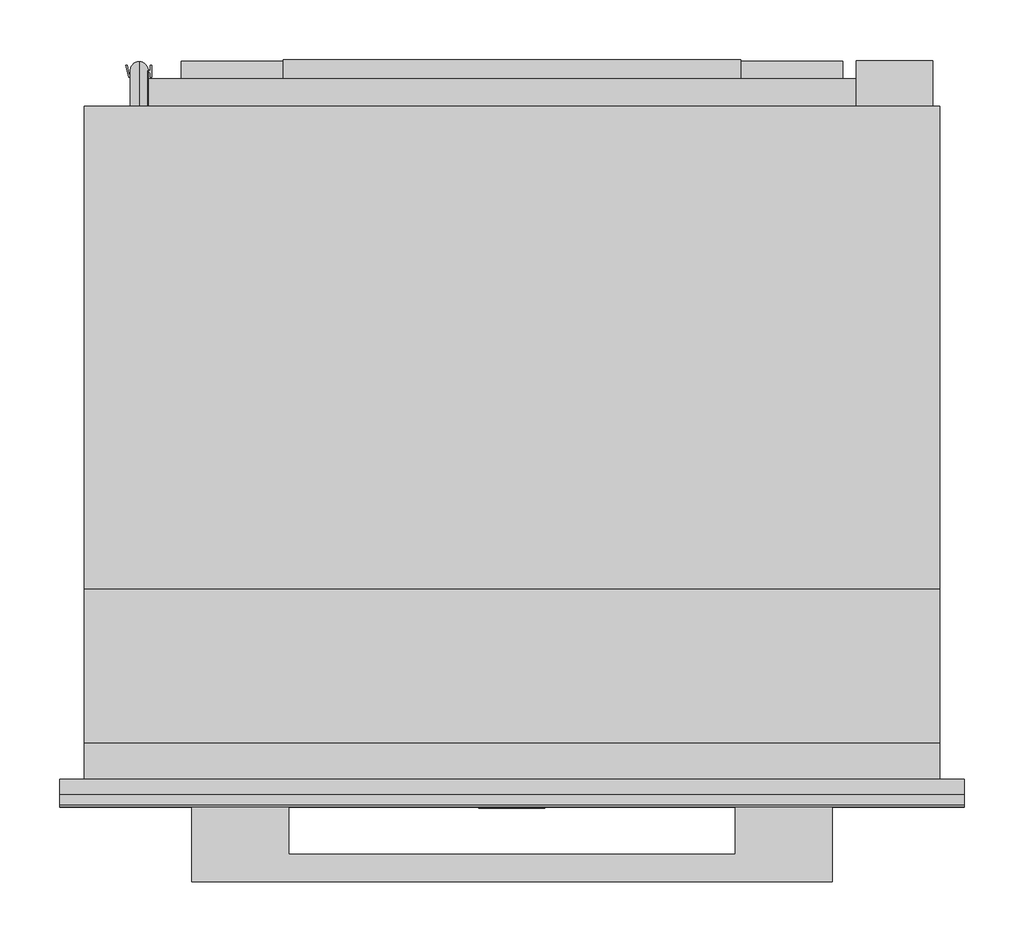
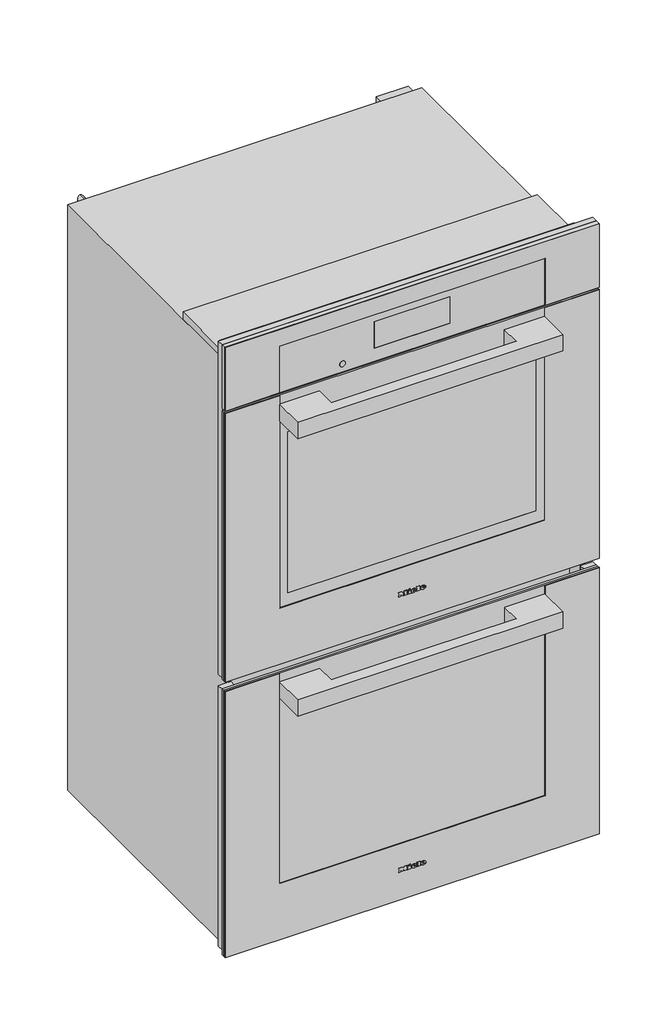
# Not in any storey: 1 proxy.
"""IFC4 building model written with IfcOpenShell, lengths in millimetres."""

import ifcopenshell
import ifcopenshell.guid

model = None  # the IFC model being written
_history = None  # IfcOwnerHistory: only IFC2X3 demands one
_inside = {}  # id of a spatial element -> (the spatial element, [elements in it])
_under = {}  # id of a project, library or spatial element -> (it, [spatial elements below it])
_declared = {}  # id of a project -> (the project, [libraries it declares])
_typed = {}  # id of a type object -> (the type object, [elements of that type])
_made_of = {}  # id of a material, layer set ... -> (it, [elements and type objects made of it])


def new_model(schema):
    """Start an empty IFC model of exactly this schema.

    Asked for "IFC4X3", IfcOpenShell would pick the latest addendum, in which some entities
    have other attributes; the version numbers below select the first issue.
    IFC2X3 requires an IfcOwnerHistory on every rooted entity: one is made here for all.
    """
    global model, _history
    if schema == "IFC4X3":
        model = ifcopenshell.file(schema_version=(4, 3, 0, 0))
    else:
        model = ifcopenshell.file(schema=schema)
    _inside.clear()
    _under.clear()
    _declared.clear()
    _typed.clear()
    _made_of.clear()
    _history = None
    if model.schema == "IFC2X3":
        org = make("IfcOrganization", Name="unknown")
        user = make(
            "IfcPersonAndOrganization",
            ThePerson=make("IfcPerson", FamilyName="unknown"),
            TheOrganization=org,
        )
        app = make(
            "IfcApplication",
            ApplicationDeveloper=org,
            Version="unknown",
            ApplicationFullName="unknown",
            ApplicationIdentifier="unknown",
        )
        _history = make(
            "IfcOwnerHistory",
            OwningUser=user,
            OwningApplication=app,
            ChangeAction="ADDED",
            CreationDate=0,
        )
    return model


def make(cls, **values):
    """One entity of the class cls with the attributes given. An attribute that is None is left unset."""
    return model.create_entity(
        cls, **{name: value for name, value in values.items() if value is not None}
    )


def rooted(cls, **values):
    """An entity with a GlobalId (a new one), such as an element, a storey or a relation."""
    return make(cls, GlobalId=ifcopenshell.guid.new(), OwnerHistory=_history, **values)


def si_unit(unit_type, name, prefix=None):
    """IfcSIUnit, for example si_unit("LENGTHUNIT", "METRE", prefix="MILLI")."""
    return make("IfcSIUnit", UnitType=unit_type, Prefix=prefix, Name=name)


def assignment(units):
    """IfcUnitAssignment: the units of a project."""
    return None if units is None else make("IfcUnitAssignment", Units=units)


def point(xyz):
    """IfcCartesianPoint."""
    return None if xyz is None else make("IfcCartesianPoint", Coordinates=xyz)


def direction(xyz):
    """IfcDirection."""
    return None if xyz is None else make("IfcDirection", DirectionRatios=xyz)


def frame(location, z_axis=None, x_axis=None):
    """IfcAxis2Placement3D, a coordinate frame: its origin and axes. An axis left out is left unset."""
    return make(
        "IfcAxis2Placement3D",
        Location=point(location),
        Axis=direction(z_axis),
        RefDirection=direction(x_axis),
    )


def frame_2d(location, x_axis=None):
    """IfcAxis2Placement2D, a coordinate frame in the plane: its origin and x axis."""
    return make(
        "IfcAxis2Placement2D", Location=point(location), RefDirection=direction(x_axis)
    )


def origin():
    """The frame at (0, 0, 0) with its axes left unset."""
    return frame((0.0, 0.0, 0.0))


def place(relative_to, where):
    """IfcLocalPlacement: puts the frame where relative to a parent placement (None: the world)."""
    return make(
        "IfcLocalPlacement", PlacementRelTo=relative_to, RelativePlacement=where
    )


def context(
    kind, dimensions, precision=None, world=None, true_north=None, identifier=None
):
    """IfcGeometricRepresentationContext, for example the 3D "Model" context."""
    return make(
        "IfcGeometricRepresentationContext",
        ContextIdentifier=identifier,
        ContextType=kind,
        CoordinateSpaceDimension=dimensions,
        Precision=precision,
        WorldCoordinateSystem=world,
        TrueNorth=true_north,
    )


def project(units=None, contexts=None):
    """IfcProject with its units and contexts."""
    return rooted(
        "IfcProject",
        Name="project",
        RepresentationContexts=contexts,
        UnitsInContext=assignment(units),
    )


def spatial(cls, under=None, at=None, **own):
    """A site, building, storey or space (cls), placed at a placement, below another one or the project."""
    s = rooted(cls, ObjectPlacement=at, **own)
    if under is not None:
        _under.setdefault(under.id(), (under, []))[1].append(s)
    return s


def polyline(points):
    """IfcPolyline through the points."""
    return make("IfcPolyline", Points=[point(p) for p in points])


def circle_curve(where, radius):
    """IfcCircle in the frame where."""
    return make("IfcCircle", Position=where, Radius=radius)


def ellipse_curve(where, semi_axis1, semi_axis2):
    """IfcEllipse in the frame where."""
    return make(
        "IfcEllipse", Position=where, SemiAxis1=semi_axis1, SemiAxis2=semi_axis2
    )


def trimmed(basis, trim1, trim2, sense, master):
    """IfcTrimmedCurve: the piece of a basis curve between two trims."""
    return make(
        "IfcTrimmedCurve",
        BasisCurve=basis,
        Trim1=trim1,
        Trim2=trim2,
        SenseAgreement=sense,
        MasterRepresentation=master,
    )


def segment(curve, same_sense, transition):
    """IfcCompositeCurveSegment."""
    return make(
        "IfcCompositeCurveSegment",
        Transition=transition,
        SameSense=same_sense,
        ParentCurve=curve,
    )


def composite_curve(segments, self_intersect=None):
    """IfcCompositeCurve: segments joined end to end."""
    return make("IfcCompositeCurve", Segments=segments, SelfIntersect=self_intersect)


def outline(outer, holes=None, kind="AREA"):
    """IfcArbitraryClosedProfileDef: a profile drawn as a closed curve; with holes, ...WithVoids."""
    if holes is None:
        return make("IfcArbitraryClosedProfileDef", ProfileType=kind, OuterCurve=outer)
    return make(
        "IfcArbitraryProfileDefWithVoids",
        ProfileType=kind,
        OuterCurve=outer,
        InnerCurves=holes,
    )


def extrude(swept, where, along, depth):
    """IfcExtrudedAreaSolid: the profile swept, set in the frame where, extruded along a direction by depth."""
    return make(
        "IfcExtrudedAreaSolid",
        SweptArea=swept,
        Position=where,
        ExtrudedDirection=direction(along),
        Depth=depth,
    )


def faces_of(points, faces, orient=None, outer=None):
    """IfcFace entities. A face is a list of loops; a loop is a list of indices into points, from 0.

    orient and outer hold one flag for each loop. By default every Orientation is true, the
    first loop of a face is its IfcFaceOuterBound and the others are IfcFaceBound.
    """
    made = []
    for i, loops in enumerate(faces):
        bounds = []
        for j, loop in enumerate(loops):
            is_outer = j == 0 if outer is None else outer[i][j]
            bounds.append(
                make(
                    "IfcFaceOuterBound" if is_outer else "IfcFaceBound",
                    Bound=make("IfcPolyLoop", Polygon=[points[k] for k in loop]),
                    Orientation=True if orient is None else orient[i][j],
                )
            )
        made.append(make("IfcFace", Bounds=bounds))
    return made


def faceted_brep(points, faces, orient=None, outer=None, voids=None):
    """IfcFacetedBrep: a solid bounded by flat faces; with voids (closed shells), ...WithVoids."""
    shared = [point(p) for p in points]
    hull = make("IfcClosedShell", CfsFaces=faces_of(shared, faces, orient, outer))
    if voids is None:
        return make("IfcFacetedBrep", Outer=hull)
    return make(
        "IfcFacetedBrepWithVoids",
        Outer=hull,
        Voids=[
            make(cls, CfsFaces=faces_of(shared, fs, o, b)) for cls, fs, o, b in voids
        ],
    )


def shape(context_of_items, identifier, shape_type, items):
    """IfcShapeRepresentation: the items that make up one representation, for example the "Body"."""
    return make(
        "IfcShapeRepresentation",
        ContextOfItems=context_of_items,
        RepresentationIdentifier=identifier,
        RepresentationType=shape_type,
        Items=items,
    )


def source(mapping_origin, context_of_items, identifier, shape_type, items):
    """IfcRepresentationMap: a shape defined once, which mapped items show again and again."""
    return make(
        "IfcRepresentationMap",
        MappingOrigin=mapping_origin,
        MappedRepresentation=shape(context_of_items, identifier, shape_type, items),
    )


def transform(
    local_origin,
    x_axis=None,
    y_axis=None,
    z_axis=None,
    scale=None,
    scale2=None,
    scale3=None,
    uniform=True,
):
    """IfcCartesianTransformationOperator3D, or its non-uniform kind. x_axis, y_axis, z_axis: its Axis1, 2, 3."""
    if uniform:
        return make(
            "IfcCartesianTransformationOperator3D",
            Axis1=direction(x_axis),
            Axis2=direction(y_axis),
            LocalOrigin=point(local_origin),
            Scale=scale,
            Axis3=direction(z_axis),
        )
    return make(
        "IfcCartesianTransformationOperator3DnonUniform",
        Axis1=direction(x_axis),
        Axis2=direction(y_axis),
        LocalOrigin=point(local_origin),
        Scale=scale,
        Axis3=direction(z_axis),
        Scale2=scale2,
        Scale3=scale3,
    )


def mapped(mapping_source, mapping_target):
    """IfcMappedItem: shows the shape of a source again, moved by a transform."""
    return make(
        "IfcMappedItem", MappingSource=mapping_source, MappingTarget=mapping_target
    )


def made_of(thing, what):
    """Note that an element or type object is made of a material, layer set ...; save() writes the relation."""
    if what is not None:
        _made_of.setdefault(what.id(), (what, []))[1].append(thing)
    return thing


def element(
    cls,
    number,
    at=None,
    inside=None,
    cuts=None,
    type_object=None,
    material=None,
    context=None,
    identifier="Body",
    shape_type=None,
    held_by="IfcProductDefinitionShape",
    body=None,
    shapes=None,
    **own,
):
    """One element of the class cls, such as IfcWall. Its Tag is "e" and its number.

    at: its placement. inside: the storey or other place that contains it. cuts: it is an
    opening in that element (IfcRelVoidsElement). A single representation is given by context,
    identifier, shape_type and body (its items); several are given by shapes. held_by: the class
    of the entity that holds the representations. save() writes the other relations.
    """
    e = rooted(cls, Tag="e%d" % number, ObjectPlacement=at, **own)
    if body is not None:
        shapes = [shape(context, identifier, shape_type, body)]
    if shapes is not None:
        e.Representation = make(held_by, Representations=shapes)
    if inside is not None:
        _inside.setdefault(inside.id(), (inside, []))[1].append(e)
    if cuts is not None:
        rooted(
            "IfcRelVoidsElement", RelatingBuildingElement=cuts, RelatedOpeningElement=e
        )
    if type_object is not None:
        _typed.setdefault(type_object.id(), (type_object, []))[1].append(e)
    return made_of(e, material)


def aggregate(whole, parts):
    """IfcRelAggregates: a whole, such as a stair, and the parts it consists of."""
    return rooted("IfcRelAggregates", RelatingObject=whole, RelatedObjects=parts)


def save(model, path):
    """Write the relations noted so far, then the file.

    IfcRelAggregates (storeys below a building ...), IfcRelContainedInSpatialStructure (elements
    in a storey), IfcRelDefinesByType, IfcRelAssociatesMaterial and IfcRelDeclares: one each for
    every whole, place, type object, material and project.
    """
    for whole, parts in _under.values():
        aggregate(whole, parts)
    for where, things in _inside.values():
        rooted(
            "IfcRelContainedInSpatialStructure",
            RelatedElements=things,
            RelatingStructure=where,
        )
    for kind, things in _typed.values():
        rooted("IfcRelDefinesByType", RelatedObjects=things, RelatingType=kind)
    for what, things in _made_of.values():
        rooted("IfcRelAssociatesMaterial", RelatedObjects=things, RelatingMaterial=what)
    for by, libraries in _declared.values():
        rooted("IfcRelDeclares", RelatingContext=by, RelatedDefinitions=libraries)
    model.write(path)


def plane_surface(at):
    """IfcPlane: the flat surface through the origin of the frame at, square to its z axis."""
    return make("IfcPlane", Position=at)


def cylinder_surface(at, radius):
    """IfcCylindricalSurface: all points at the distance radius from the z axis of the frame at."""
    return make("IfcCylindricalSurface", Position=at, Radius=radius)


def revolved_surface(curve, axis_point, axis_direction):
    """IfcSurfaceOfRevolution: the curve turned about the line through axis_point along axis_direction."""
    return make(
        "IfcSurfaceOfRevolution",
        SweptCurve=make("IfcArbitraryOpenProfileDef", ProfileType="CURVE", Curve=curve),
        AxisPosition=make("IfcAxis1Placement", Location=point(axis_point), Axis=direction(axis_direction)),
    )


def extruded_surface(curve, direction_of_extrusion, depth):
    """IfcSurfaceOfLinearExtrusion: the curve pushed along a direction by depth."""
    return make(
        "IfcSurfaceOfLinearExtrusion",
        SweptCurve=make("IfcArbitraryOpenProfileDef", ProfileType="CURVE", Curve=curve),
        ExtrudedDirection=direction(direction_of_extrusion),
        Depth=depth,
    )


def advanced_brep(points, edges, surfaces, faces):
    """IfcAdvancedBrep: a solid bounded by faces that lie on surfaces and meet in shared edges.

    An edge is (start, end): straight between two places in points (the first is 0);
    or (start, end, curve); or (start, end, curve, False) where it runs against its curve.
    A face is (place in surfaces, loops), or (place, loops, False) where it looks against
    its surface's normal. A loop lists edges by number (the first is 1), with a minus sign
    where the edge is run from its end to its start. The first loop is the outer one.
    """
    corners = [point(p) for p in points]
    vertices = [make("IfcVertexPoint", VertexGeometry=c) for c in corners]
    made = []
    for start, end, *more in edges:
        made.append(
            make(
                "IfcEdgeCurve",
                EdgeStart=vertices[start],
                EdgeEnd=vertices[end],
                EdgeGeometry=more[0] if more else make("IfcPolyline", Points=[corners[start], corners[end]]),
                SameSense=more[1] if len(more) > 1 else True,
            )
        )
    hull = []
    for where, loops, *sense in faces:
        bounds = []
        for j, loop in enumerate(loops):
            ring = [make("IfcOrientedEdge", EdgeElement=made[abs(k) - 1], Orientation=k > 0) for k in loop]
            bounds.append(
                make(
                    "IfcFaceOuterBound" if j == 0 else "IfcFaceBound",
                    Bound=make("IfcEdgeLoop", EdgeList=ring),
                    Orientation=True,
                )
            )
        hull.append(make("IfcAdvancedFace", Bounds=bounds, FaceSurface=surfaces[where], SameSense=sense[0] if sense else True))
    return make("IfcAdvancedBrep", Outer=make("IfcClosedShell", CfsFaces=hull))


def specialty_equipment_2fecc1ba(model_context):
    return source(origin(), model_context, "Body", "SolidModel", [
        advanced_brep(
        [(20.763, -24.3, 655.133), (20.763, -24.3, 656.042), (26.784, -24.3, 656.042), (16.308, -24.3, 656.042), (18.783, -24.3, 653.0), (26.631, -24.3, 655.133), (23.913, -24.3, 655.133), (21.771, -24.3, 654.125), (20.763, -24.3, 657.194), (20.763, -24.3, 658.175), (22.302, -24.3, 658.175), (22.302, -24.3, 657.194), (20.763, -23.3, 655.133), (21.771, -23.3, 654.125), (23.913, -23.3, 655.133), (26.631, -23.3, 655.133), (18.783, -23.3, 653.0), (16.308, -23.3, 656.042), (26.784, -23.3, 656.042), (20.763, -23.3, 656.042), (20.763, -23.3, 657.194), (22.302, -23.3, 657.194), (22.302, -23.3, 658.175), (20.763, -23.3, 658.175)],
        [
            (0, 1),
            (1, 2),
            (2, 3, ellipse_curve(frame((21.546, -24.3, 656.042), z_axis=(0.0, -1.0, 0.0), x_axis=(-1.0, 0.0, 0.0)), 5.238, 4.329)),
            (3, 4, circle_curve(frame((19.7910491, -24.3, 656.348), z_axis=(0.0, -1.0, 0.0), x_axis=(0.0, 0.0, -1.0)), 3.4964649)),
            (4, 5, circle_curve(frame((21.4411428, -24.3, 658.724), z_axis=(0.0, -1.0, 0.0), x_axis=(0.0, 0.0, -1.0)), 6.3110933)),
            (5, 6),
            (6, 7, circle_curve(frame((22.2109412, -24.3, 655.97), z_axis=(0.0, 1.0, 0.0), x_axis=(0.0, 0.0, -1.0)), 1.896727)),
            (7, 0, circle_curve(frame((21.771, -24.3, 655.133), z_axis=(0.0, 1.0, 0.0), x_axis=(0.0, 0.0, -1.0)), 1.008)),
            (8, 9),
            (9, 10, circle_curve(frame((21.5325, -24.3, 658.175), z_axis=(0.0, 1.0, 0.0), x_axis=(0.0, 0.0, -1.0)), 0.7695)),
            (10, 11),
            (11, 8),
            (12, 13, circle_curve(frame((21.771, -23.3, 655.133), z_axis=(0.0, -1.0, 0.0), x_axis=(0.0, 0.0, -1.0)), 1.008)),
            (13, 14, circle_curve(frame((22.2109412, -23.3, 655.97), z_axis=(0.0, -1.0, 0.0), x_axis=(0.0, 0.0, -1.0)), 1.896727)),
            (14, 15),
            (15, 16, circle_curve(frame((21.4411428, -23.3, 658.724), z_axis=(0.0, 1.0, 0.0), x_axis=(0.0, 0.0, -1.0)), 6.3110933)),
            (16, 17, circle_curve(frame((19.7910491, -23.3, 656.348), z_axis=(0.0, 1.0, 0.0), x_axis=(0.0, 0.0, -1.0)), 3.4964649)),
            (17, 18, ellipse_curve(frame((21.546, -23.3, 656.042), z_axis=(0.0, 1.0, 0.0), x_axis=(-1.0, 0.0, 0.0)), 5.238, 4.329)),
            (18, 19),
            (19, 12),
            (20, 21),
            (21, 22),
            (22, 23, circle_curve(frame((21.5325, -23.3, 658.175), z_axis=(0.0, -1.0, 0.0), x_axis=(0.0, 0.0, -1.0)), 0.7695)),
            (23, 20),
            (0, 12),
            (19, 1),
            (18, 2),
            (5, 15),
            (14, 6),
            (17, 3),
            (13, 7),
            (16, 4),
            (8, 20),
            (23, 9),
            (22, 10),
            (21, 11),
        ],
        [
            plane_surface(frame((20.763, -24.3, 656.042), z_axis=(0.0, -1.0, 0.0), x_axis=(0.0, 0.0, 1.0))),
            plane_surface(frame((20.763, -23.3, 656.042), z_axis=(0.0, 1.0, 0.0), x_axis=(0.0, 0.0, -1.0))),
            plane_surface(frame((20.763, -24.3, 655.133), z_axis=(1.0, 0.0, 0.0), x_axis=(0.0, 1.0, 0.0))),
            plane_surface(frame((20.763, -24.3, 656.042), z_axis=(0.0, 0.0, -1.0), x_axis=(0.0, 1.0, 0.0))),
            plane_surface(frame((26.631, -24.3, 655.133), z_axis=(0.0, 0.0, 1.0), x_axis=(0.0, 1.0, 0.0))),
            extruded_surface(trimmed(ellipse_curve(frame((21.546, -22.3, 656.042), z_axis=(0.0, -1.0, 0.0), x_axis=(-1.0, 0.0, 0.0)), 5.238, 4.329), [point((26.784, -22.3, 656.042))], [point((16.308, -22.3, 656.042))], True, "CARTESIAN"), (0.0, -1.0, 0.0), 1.0),
            revolved_surface(polyline([(22.2109412, -23.3, 654.073273), (22.2109412, -24.3, 654.073273)]), (22.2109412, -23.3, 655.97), (0.0, 1.0, 0.0)),
            revolved_surface(polyline([(21.771, -23.3, 654.125), (21.771, -24.3, 654.125)]), (21.771, -23.3, 655.133), (0.0, 1.0, 0.0)),
            cylinder_surface(frame((19.7910491, -23.3, 656.348), z_axis=(0.0, -1.0, 0.0), x_axis=(0.0, 0.0, -1.0)), 3.4964649),
            cylinder_surface(frame((21.4411428, -23.3, 658.724), z_axis=(0.0, -1.0, 0.0), x_axis=(0.0, 0.0, -1.0)), 6.3110933),
            plane_surface(frame((20.763, -24.3, 657.194), z_axis=(1.0, 0.0, 0.0), x_axis=(0.0, 1.0, 0.0))),
            revolved_surface(polyline([(21.5325, -23.3, 657.4055), (21.5325, -24.3, 657.4055)]), (21.5325, -23.3, 658.175), (0.0, 1.0, 0.0)),
            plane_surface(frame((22.302, -24.3, 658.175), z_axis=(-1.0, 0.0, 0.0), x_axis=(0.0, 1.0, 0.0))),
            plane_surface(frame((22.302, -24.3, 657.194), z_axis=(0.0, 0.0, 1.0), x_axis=(0.0, 1.0, 0.0))),
        ],
        [
            (0, [[1, 2, 3, 4, 5, 6, 7, 8], [9, 10, 11, 12]]),
            (1, [[13, 14, 15, 16, 17, 18, 19, 20], [21, 22, 23, 24]]),
            (2, [[-1, 25, -20, 26]]),
            (3, [[-2, -26, -19, 27]]),
            (4, [[-6, 28, -15, 29]]),
            (5, [[-3, -27, -18, 30]]),
            (6, [[-7, -29, -14, 31]]),
            (7, [[-8, -31, -13, -25]]),
            (8, [[-4, -30, -17, 32]]),
            (9, [[-5, -32, -16, -28]]),
            (10, [[-9, 33, -24, 34]]),
            (11, [[-10, -34, -23, 35]]),
            (12, [[-11, -35, -22, 36]]),
            (13, [[-12, -36, -21, -33]]),
        ],
    ),
        advanced_brep(
        [(1.98, -24.3, 655.133), (1.98, -24.3, 656.042), (8.001, -24.3, 656.042), (-2.475, -24.3, 656.042), (0.0, -24.3, 653.0), (7.848, -24.3, 655.133), (5.13, -24.3, 655.133), (2.988, -24.3, 654.125), (1.98, -24.3, 657.194), (1.98, -24.3, 658.175), (3.519, -24.3, 658.175), (3.519, -24.3, 657.194), (1.98, -23.3, 655.133), (2.988, -23.3, 654.125), (5.13, -23.3, 655.133), (7.848, -23.3, 655.133), (0.0, -23.3, 653.0), (-2.475, -23.3, 656.042), (8.001, -23.3, 656.042), (1.98, -23.3, 656.042), (1.98, -23.3, 657.194), (3.519, -23.3, 657.194), (3.519, -23.3, 658.175), (1.98, -23.3, 658.175)],
        [
            (0, 1),
            (1, 2),
            (2, 3, ellipse_curve(frame((2.763, -24.3, 656.042), z_axis=(0.0, -1.0, 0.0), x_axis=(-1.0, 0.0, 0.0)), 5.238, 4.329)),
            (3, 4, circle_curve(frame((1.0080491, -24.3, 656.348), z_axis=(0.0, -1.0, 0.0), x_axis=(0.0, 0.0, -1.0)), 3.4964649)),
            (4, 5, circle_curve(frame((2.6581428, -24.3, 658.724), z_axis=(0.0, -1.0, 0.0), x_axis=(0.0, 0.0, -1.0)), 6.3110933)),
            (5, 6),
            (6, 7, circle_curve(frame((3.4279412, -24.3, 655.97), z_axis=(0.0, 1.0, 0.0), x_axis=(0.0, 0.0, -1.0)), 1.896727)),
            (7, 0, circle_curve(frame((2.988, -24.3, 655.133), z_axis=(0.0, 1.0, 0.0), x_axis=(0.0, 0.0, -1.0)), 1.008)),
            (8, 9),
            (9, 10, circle_curve(frame((2.7495, -24.3, 658.175), z_axis=(0.0, 1.0, 0.0), x_axis=(0.0, 0.0, -1.0)), 0.7695)),
            (10, 11),
            (11, 8),
            (12, 13, circle_curve(frame((2.988, -23.3, 655.133), z_axis=(0.0, -1.0, 0.0), x_axis=(0.0, 0.0, -1.0)), 1.008)),
            (13, 14, circle_curve(frame((3.4279412, -23.3, 655.97), z_axis=(0.0, -1.0, 0.0), x_axis=(0.0, 0.0, -1.0)), 1.896727)),
            (14, 15),
            (15, 16, circle_curve(frame((2.6581428, -23.3, 658.724), z_axis=(0.0, 1.0, 0.0), x_axis=(0.0, 0.0, -1.0)), 6.3110933)),
            (16, 17, circle_curve(frame((1.0080491, -23.3, 656.348), z_axis=(0.0, 1.0, 0.0), x_axis=(0.0, 0.0, -1.0)), 3.4964649)),
            (17, 18, ellipse_curve(frame((2.763, -23.3, 656.042), z_axis=(0.0, 1.0, 0.0), x_axis=(-1.0, 0.0, 0.0)), 5.238, 4.329)),
            (18, 19),
            (19, 12),
            (20, 21),
            (21, 22),
            (22, 23, circle_curve(frame((2.7495, -23.3, 658.175), z_axis=(0.0, -1.0, 0.0), x_axis=(0.0, 0.0, -1.0)), 0.7695)),
            (23, 20),
            (0, 12),
            (19, 1),
            (18, 2),
            (5, 15),
            (14, 6),
            (17, 3),
            (13, 7),
            (16, 4),
            (8, 20),
            (23, 9),
            (22, 10),
            (21, 11),
        ],
        [
            plane_surface(frame((1.98, -24.3, 656.042), z_axis=(0.0, -1.0, 0.0), x_axis=(0.0, 0.0, 1.0))),
            plane_surface(frame((1.98, -23.3, 656.042), z_axis=(0.0, 1.0, 0.0), x_axis=(0.0, 0.0, -1.0))),
            plane_surface(frame((1.98, -24.3, 655.133), z_axis=(1.0, 0.0, 0.0), x_axis=(0.0, 1.0, 0.0))),
            plane_surface(frame((1.98, -24.3, 656.042), z_axis=(0.0, 0.0, -1.0), x_axis=(0.0, 1.0, 0.0))),
            plane_surface(frame((7.848, -24.3, 655.133), z_axis=(0.0, 0.0, 1.0), x_axis=(0.0, 1.0, 0.0))),
            extruded_surface(trimmed(ellipse_curve(frame((2.763, -22.3, 656.042), z_axis=(0.0, -1.0, 0.0), x_axis=(-1.0, 0.0, 0.0)), 5.238, 4.329), [point((8.001, -22.3, 656.042))], [point((-2.475, -22.3, 656.042))], True, "CARTESIAN"), (0.0, -1.0, 0.0), 1.0),
            revolved_surface(polyline([(3.4279412, -23.3, 654.073273), (3.4279412, -24.3, 654.073273)]), (3.4279412, -23.3, 655.97), (0.0, 1.0, 0.0)),
            revolved_surface(polyline([(2.988, -23.3, 654.125), (2.988, -24.3, 654.125)]), (2.988, -23.3, 655.133), (0.0, 1.0, 0.0)),
            cylinder_surface(frame((1.0080491, -23.3, 656.348), z_axis=(0.0, -1.0, 0.0), x_axis=(0.0, 0.0, -1.0)), 3.4964649),
            cylinder_surface(frame((2.6581428, -23.3, 658.724), z_axis=(0.0, -1.0, 0.0), x_axis=(0.0, 0.0, -1.0)), 6.3110933),
            plane_surface(frame((1.98, -24.3, 657.194), z_axis=(1.0, 0.0, 0.0), x_axis=(0.0, 1.0, 0.0))),
            revolved_surface(polyline([(2.7495, -23.3, 657.4055), (2.7495, -24.3, 657.4055)]), (2.7495, -23.3, 658.175), (0.0, 1.0, 0.0)),
            plane_surface(frame((3.519, -24.3, 658.175), z_axis=(-1.0, 0.0, 0.0), x_axis=(0.0, 1.0, 0.0))),
            plane_surface(frame((3.519, -24.3, 657.194), z_axis=(0.0, 0.0, 1.0), x_axis=(0.0, 1.0, 0.0))),
        ],
        [
            (0, [[1, 2, 3, 4, 5, 6, 7, 8], [9, 10, 11, 12]]),
            (1, [[13, 14, 15, 16, 17, 18, 19, 20], [21, 22, 23, 24]]),
            (2, [[-1, 25, -20, 26]]),
            (3, [[-2, -26, -19, 27]]),
            (4, [[-6, 28, -15, 29]]),
            (5, [[-3, -27, -18, 30]]),
            (6, [[-7, -29, -14, 31]]),
            (7, [[-8, -31, -13, -25]]),
            (8, [[-4, -30, -17, 32]]),
            (9, [[-5, -32, -16, -28]]),
            (10, [[-9, 33, -24, 34]]),
            (11, [[-10, -34, -23, 35]]),
            (12, [[-11, -35, -22, 36]]),
            (13, [[-12, -36, -21, -33]]),
        ],
    ),
        extrude(outline(polyline([(661.469, -7.857), (660.011, -7.173), (661.433, -4.122), (662.891, -4.797), (661.469, -7.857)])), frame((0.0, -24.3, 0.0), z_axis=(0.0, 1.0, 0.0), x_axis=(0.0, 0.0, 1.0)), (0.0, 0.0, 1.0), 1.0),
        extrude(outline(polyline([(659.813, -10.08), (658.202, -10.08), (658.202, -9.009), (654.512, -9.009), (654.512, -10.08), (653.0, -10.08), (653.0, -2.979), (654.512, -2.979), (654.512, -4.023), (659.813, -4.023), (659.813, -10.08)])), frame((0.0, -24.3, 0.0), z_axis=(0.0, 1.0, 0.0), x_axis=(0.0, 0.0, 1.0)), (0.0, 0.0, 1.0), 1.0),
        extrude(outline(polyline([(660.533, 8.505), (660.533, 9.585), (654.512, 9.585), (654.512, 8.505), (653.0, 8.505), (653.0, 15.804), (654.512, 15.804), (654.512, 14.697), (662.0, 14.697), (662.0, 8.505), (660.533, 8.505)])), frame((0.0, -24.3, 0.0), z_axis=(0.0, 1.0, 0.0), x_axis=(0.0, 0.0, 1.0)), (0.0, 0.0, 1.0), 1.0),
        extrude(outline(polyline([(660.533, -28.017), (660.533, -26.928), (654.512, -26.928), (654.512, -28.017), (653.0, -28.017), (653.0, -24.057), (654.512, -24.057), (654.512, -25.137), (658.3341247, -25.137), (653.0, -21.114), (658.4402223, -17.073), (654.512, -17.073), (654.512, -18.18), (653.0, -18.18), (653.0, -10.998), (654.512, -10.998), (654.512, -12.141), (660.533, -12.141), (660.533, -10.998), (662.0, -10.998), (662.0, -16.479), (658.625, -19.107), (662.0, -21.744), (662.0, -28.017), (660.533, -28.017)])), frame((0.0, -24.3, 0.0), z_axis=(0.0, 1.0, 0.0), x_axis=(0.0, 0.0, 1.0)), (0.0, 0.0, 1.0), 1.0),
        advanced_brep(
        [(21.28, -24.3, 66.133), (21.28, -24.3, 67.042), (27.301, -24.3, 67.042), (16.825, -24.3, 67.042), (19.3, -24.3, 64.0), (27.148, -24.3, 66.133), (24.43, -24.3, 66.133), (22.288, -24.3, 65.125), (21.28, -24.3, 68.194), (21.28, -24.3, 69.175), (22.819, -24.3, 69.175), (22.819, -24.3, 68.194), (21.28, -23.3, 66.133), (22.288, -23.3, 65.125), (24.43, -23.3, 66.133), (27.148, -23.3, 66.133), (19.3, -23.3, 64.0), (16.825, -23.3, 67.042), (27.301, -23.3, 67.042), (21.28, -23.3, 67.042), (21.28, -23.3, 68.194), (22.819, -23.3, 68.194), (22.819, -23.3, 69.175), (21.28, -23.3, 69.175)],
        [
            (0, 1),
            (1, 2),
            (2, 3, ellipse_curve(frame((22.063, -24.3, 67.042), z_axis=(0.0, -1.0, 0.0), x_axis=(-1.0, 0.0, 0.0)), 5.238, 4.329)),
            (3, 4, circle_curve(frame((20.3080491, -24.3, 67.348), z_axis=(0.0, -1.0, 0.0), x_axis=(0.0, 0.0, -1.0)), 3.4964649)),
            (4, 5, circle_curve(frame((21.9581428, -24.3, 69.724), z_axis=(0.0, -1.0, 0.0), x_axis=(0.0, 0.0, -1.0)), 6.3110933)),
            (5, 6),
            (6, 7, circle_curve(frame((22.7279412, -24.3, 66.97), z_axis=(0.0, 1.0, 0.0), x_axis=(0.0, 0.0, -1.0)), 1.896727)),
            (7, 0, circle_curve(frame((22.288, -24.3, 66.133), z_axis=(0.0, 1.0, 0.0), x_axis=(0.0, 0.0, -1.0)), 1.008)),
            (8, 9),
            (9, 10, circle_curve(frame((22.0495, -24.3, 69.175), z_axis=(0.0, 1.0, 0.0), x_axis=(0.0, 0.0, -1.0)), 0.7695)),
            (10, 11),
            (11, 8),
            (12, 13, circle_curve(frame((22.288, -23.3, 66.133), z_axis=(0.0, -1.0, 0.0), x_axis=(0.0, 0.0, -1.0)), 1.008)),
            (13, 14, circle_curve(frame((22.7279412, -23.3, 66.97), z_axis=(0.0, -1.0, 0.0), x_axis=(0.0, 0.0, -1.0)), 1.896727)),
            (14, 15),
            (15, 16, circle_curve(frame((21.9581428, -23.3, 69.724), z_axis=(0.0, 1.0, 0.0), x_axis=(0.0, 0.0, -1.0)), 6.3110933)),
            (16, 17, circle_curve(frame((20.3080491, -23.3, 67.348), z_axis=(0.0, 1.0, 0.0), x_axis=(0.0, 0.0, -1.0)), 3.4964649)),
            (17, 18, ellipse_curve(frame((22.063, -23.3, 67.042), z_axis=(0.0, 1.0, 0.0), x_axis=(-1.0, 0.0, 0.0)), 5.238, 4.329)),
            (18, 19),
            (19, 12),
            (20, 21),
            (21, 22),
            (22, 23, circle_curve(frame((22.0495, -23.3, 69.175), z_axis=(0.0, -1.0, 0.0), x_axis=(0.0, 0.0, -1.0)), 0.7695)),
            (23, 20),
            (0, 12),
            (19, 1),
            (18, 2),
            (5, 15),
            (14, 6),
            (17, 3),
            (13, 7),
            (16, 4),
            (8, 20),
            (23, 9),
            (22, 10),
            (21, 11),
        ],
        [
            plane_surface(frame((21.28, -24.3, 67.042), z_axis=(0.0, -1.0, 0.0), x_axis=(0.0, 0.0, 1.0))),
            plane_surface(frame((21.28, -23.3, 67.042), z_axis=(0.0, 1.0, 0.0), x_axis=(0.0, 0.0, -1.0))),
            plane_surface(frame((21.28, -24.3, 66.133), z_axis=(1.0, 0.0, 0.0), x_axis=(0.0, 1.0, 0.0))),
            plane_surface(frame((21.28, -24.3, 67.042), z_axis=(0.0, 0.0, -1.0), x_axis=(0.0, 1.0, 0.0))),
            plane_surface(frame((27.148, -24.3, 66.133), z_axis=(0.0, 0.0, 1.0), x_axis=(0.0, 1.0, 0.0))),
            extruded_surface(trimmed(ellipse_curve(frame((22.063, -22.3, 67.042), z_axis=(0.0, -1.0, 0.0), x_axis=(-1.0, 0.0, 0.0)), 5.238, 4.329), [point((27.301, -22.3, 67.042))], [point((16.825, -22.3, 67.042))], True, "CARTESIAN"), (0.0, -1.0, 0.0), 1.0),
            revolved_surface(polyline([(22.7279412, -23.3, 65.073273), (22.7279412, -24.3, 65.073273)]), (22.7279412, -23.3, 66.97), (0.0, 1.0, 0.0)),
            revolved_surface(polyline([(22.288, -23.3, 65.125), (22.288, -24.3, 65.125)]), (22.288, -23.3, 66.133), (0.0, 1.0, 0.0)),
            cylinder_surface(frame((20.3080491, -23.3, 67.348), z_axis=(0.0, -1.0, 0.0), x_axis=(0.0, 0.0, -1.0)), 3.4964649),
            cylinder_surface(frame((21.9581428, -23.3, 69.724), z_axis=(0.0, -1.0, 0.0), x_axis=(0.0, 0.0, -1.0)), 6.3110933),
            plane_surface(frame((21.28, -24.3, 68.194), z_axis=(1.0, 0.0, 0.0), x_axis=(0.0, 1.0, 0.0))),
            revolved_surface(polyline([(22.0495, -23.3, 68.4055), (22.0495, -24.3, 68.4055)]), (22.0495, -23.3, 69.175), (0.0, 1.0, 0.0)),
            plane_surface(frame((22.819, -24.3, 69.175), z_axis=(-1.0, 0.0, 0.0), x_axis=(0.0, 1.0, 0.0))),
            plane_surface(frame((22.819, -24.3, 68.194), z_axis=(0.0, 0.0, 1.0), x_axis=(0.0, 1.0, 0.0))),
        ],
        [
            (0, [[1, 2, 3, 4, 5, 6, 7, 8], [9, 10, 11, 12]]),
            (1, [[13, 14, 15, 16, 17, 18, 19, 20], [21, 22, 23, 24]]),
            (2, [[-1, 25, -20, 26]]),
            (3, [[-2, -26, -19, 27]]),
            (4, [[-6, 28, -15, 29]]),
            (5, [[-3, -27, -18, 30]]),
            (6, [[-7, -29, -14, 31]]),
            (7, [[-8, -31, -13, -25]]),
            (8, [[-4, -30, -17, 32]]),
            (9, [[-5, -32, -16, -28]]),
            (10, [[-9, 33, -24, 34]]),
            (11, [[-10, -34, -23, 35]]),
            (12, [[-11, -35, -22, 36]]),
            (13, [[-12, -36, -21, -33]]),
        ],
    ),
        advanced_brep(
        [(2.497, -24.3, 66.133), (2.497, -24.3, 67.042), (8.518, -24.3, 67.042), (-1.958, -24.3, 67.042), (0.517, -24.3, 64.0), (8.365, -24.3, 66.133), (5.647, -24.3, 66.133), (3.505, -24.3, 65.125), (2.497, -24.3, 68.194), (2.497, -24.3, 69.175), (4.036, -24.3, 69.175), (4.036, -24.3, 68.194), (2.497, -23.3, 66.133), (3.505, -23.3, 65.125), (5.647, -23.3, 66.133), (8.365, -23.3, 66.133), (0.517, -23.3, 64.0), (-1.958, -23.3, 67.042), (8.518, -23.3, 67.042), (2.497, -23.3, 67.042), (2.497, -23.3, 68.194), (4.036, -23.3, 68.194), (4.036, -23.3, 69.175), (2.497, -23.3, 69.175)],
        [
            (0, 1),
            (1, 2),
            (2, 3, ellipse_curve(frame((3.28, -24.3, 67.042), z_axis=(0.0, -1.0, 0.0), x_axis=(-1.0, 0.0, 0.0)), 5.238, 4.329)),
            (3, 4, circle_curve(frame((1.5250491, -24.3, 67.348), z_axis=(0.0, -1.0, 0.0), x_axis=(0.0, 0.0, -1.0)), 3.4964649)),
            (4, 5, circle_curve(frame((3.1751428, -24.3, 69.724), z_axis=(0.0, -1.0, 0.0), x_axis=(0.0, 0.0, -1.0)), 6.3110933)),
            (5, 6),
            (6, 7, circle_curve(frame((3.9449412, -24.3, 66.97), z_axis=(0.0, 1.0, 0.0), x_axis=(0.0, 0.0, -1.0)), 1.896727)),
            (7, 0, circle_curve(frame((3.505, -24.3, 66.133), z_axis=(0.0, 1.0, 0.0), x_axis=(0.0, 0.0, -1.0)), 1.008)),
            (8, 9),
            (9, 10, circle_curve(frame((3.2665, -24.3, 69.175), z_axis=(0.0, 1.0, 0.0), x_axis=(0.0, 0.0, -1.0)), 0.7695)),
            (10, 11),
            (11, 8),
            (12, 13, circle_curve(frame((3.505, -23.3, 66.133), z_axis=(0.0, -1.0, 0.0), x_axis=(0.0, 0.0, -1.0)), 1.008)),
            (13, 14, circle_curve(frame((3.9449412, -23.3, 66.97), z_axis=(0.0, -1.0, 0.0), x_axis=(0.0, 0.0, -1.0)), 1.896727)),
            (14, 15),
            (15, 16, circle_curve(frame((3.1751428, -23.3, 69.724), z_axis=(0.0, 1.0, 0.0), x_axis=(0.0, 0.0, -1.0)), 6.3110933)),
            (16, 17, circle_curve(frame((1.5250491, -23.3, 67.348), z_axis=(0.0, 1.0, 0.0), x_axis=(0.0, 0.0, -1.0)), 3.4964649)),
            (17, 18, ellipse_curve(frame((3.28, -23.3, 67.042), z_axis=(0.0, 1.0, 0.0), x_axis=(-1.0, 0.0, 0.0)), 5.238, 4.329)),
            (18, 19),
            (19, 12),
            (20, 21),
            (21, 22),
            (22, 23, circle_curve(frame((3.2665, -23.3, 69.175), z_axis=(0.0, -1.0, 0.0), x_axis=(0.0, 0.0, -1.0)), 0.7695)),
            (23, 20),
            (0, 12),
            (19, 1),
            (18, 2),
            (5, 15),
            (14, 6),
            (17, 3),
            (13, 7),
            (16, 4),
            (8, 20),
            (23, 9),
            (22, 10),
            (21, 11),
        ],
        [
            plane_surface(frame((2.497, -24.3, 67.042), z_axis=(0.0, -1.0, 0.0), x_axis=(0.0, 0.0, 1.0))),
            plane_surface(frame((2.497, -23.3, 67.042), z_axis=(0.0, 1.0, 0.0), x_axis=(0.0, 0.0, -1.0))),
            plane_surface(frame((2.497, -24.3, 66.133), z_axis=(1.0, 0.0, 0.0), x_axis=(0.0, 1.0, 0.0))),
            plane_surface(frame((2.497, -24.3, 67.042), z_axis=(0.0, 0.0, -1.0), x_axis=(0.0, 1.0, 0.0))),
            plane_surface(frame((8.365, -24.3, 66.133), z_axis=(0.0, 0.0, 1.0), x_axis=(0.0, 1.0, 0.0))),
            extruded_surface(trimmed(ellipse_curve(frame((3.28, -22.3, 67.042), z_axis=(0.0, -1.0, 0.0), x_axis=(-1.0, 0.0, 0.0)), 5.238, 4.329), [point((8.518, -22.3, 67.042))], [point((-1.958, -22.3, 67.042))], True, "CARTESIAN"), (0.0, -1.0, 0.0), 1.0),
            revolved_surface(polyline([(3.9449412, -23.3, 65.073273), (3.9449412, -24.3, 65.073273)]), (3.9449412, -23.3, 66.97), (0.0, 1.0, 0.0)),
            revolved_surface(polyline([(3.505, -23.3, 65.125), (3.505, -24.3, 65.125)]), (3.505, -23.3, 66.133), (0.0, 1.0, 0.0)),
            cylinder_surface(frame((1.5250491, -23.3, 67.348), z_axis=(0.0, -1.0, 0.0), x_axis=(0.0, 0.0, -1.0)), 3.4964649),
            cylinder_surface(frame((3.1751428, -23.3, 69.724), z_axis=(0.0, -1.0, 0.0), x_axis=(0.0, 0.0, -1.0)), 6.3110933),
            plane_surface(frame((2.497, -24.3, 68.194), z_axis=(1.0, 0.0, 0.0), x_axis=(0.0, 1.0, 0.0))),
            revolved_surface(polyline([(3.2665, -23.3, 68.4055), (3.2665, -24.3, 68.4055)]), (3.2665, -23.3, 69.175), (0.0, 1.0, 0.0)),
            plane_surface(frame((4.036, -24.3, 69.175), z_axis=(-1.0, 0.0, 0.0), x_axis=(0.0, 1.0, 0.0))),
            plane_surface(frame((4.036, -24.3, 68.194), z_axis=(0.0, 0.0, 1.0), x_axis=(0.0, 1.0, 0.0))),
        ],
        [
            (0, [[1, 2, 3, 4, 5, 6, 7, 8], [9, 10, 11, 12]]),
            (1, [[13, 14, 15, 16, 17, 18, 19, 20], [21, 22, 23, 24]]),
            (2, [[-1, 25, -20, 26]]),
            (3, [[-2, -26, -19, 27]]),
            (4, [[-6, 28, -15, 29]]),
            (5, [[-3, -27, -18, 30]]),
            (6, [[-7, -29, -14, 31]]),
            (7, [[-8, -31, -13, -25]]),
            (8, [[-4, -30, -17, 32]]),
            (9, [[-5, -32, -16, -28]]),
            (10, [[-9, 33, -24, 34]]),
            (11, [[-10, -34, -23, 35]]),
            (12, [[-11, -35, -22, 36]]),
            (13, [[-12, -36, -21, -33]]),
        ],
    ),
        extrude(outline(polyline([(72.469, -7.34), (71.011, -6.656), (72.433, -3.605), (73.891, -4.28), (72.469, -7.34)])), frame((0.0, -24.3, 0.0), z_axis=(0.0, 1.0, 0.0), x_axis=(0.0, 0.0, 1.0)), (0.0, 0.0, 1.0), 1.0),
        extrude(outline(polyline([(70.813, -9.563), (69.202, -9.563), (69.202, -8.492), (65.512, -8.492), (65.512, -9.563), (64.0, -9.563), (64.0, -2.462), (65.512, -2.462), (65.512, -3.506), (70.813, -3.506), (70.813, -9.563)])), frame((0.0, -24.3, 0.0), z_axis=(0.0, 1.0, 0.0), x_axis=(0.0, 0.0, 1.0)), (0.0, 0.0, 1.0), 1.0),
        extrude(outline(polyline([(71.533, 9.022), (71.533, 10.102), (65.512, 10.102), (65.512, 9.022), (64.0, 9.022), (64.0, 16.321), (65.512, 16.321), (65.512, 15.214), (73.0, 15.214), (73.0, 9.022), (71.533, 9.022)])), frame((0.0, -24.3, 0.0), z_axis=(0.0, 1.0, 0.0), x_axis=(0.0, 0.0, 1.0)), (0.0, 0.0, 1.0), 1.0),
        extrude(outline(polyline([(71.533, -27.5), (71.533, -26.411), (65.512, -26.411), (65.512, -27.5), (64.0, -27.5), (64.0, -23.54), (65.512, -23.54), (65.512, -24.62), (69.3341247, -24.62), (64.0, -20.597), (69.4402223, -16.556), (65.512, -16.556), (65.512, -17.663), (64.0, -17.663), (64.0, -10.481), (65.512, -10.481), (65.512, -11.624), (71.533, -11.624), (71.533, -10.481), (73.0, -10.481), (73.0, -15.962), (69.625, -18.59), (73.0, -21.227), (73.0, -27.5), (71.533, -27.5)])), frame((0.0, -24.3, 0.0), z_axis=(0.0, 1.0, 0.0), x_axis=(0.0, 0.0, 1.0)), (0.0, 0.0, 1.0), 1.0),
        extrude(outline(polyline([(-268.0, -22.0), (-187.0, -22.0), (-187.0, -63.0), (187.0, -63.0), (187.0, -22.0), (268.0, -22.0), (268.0, -86.0), (-268.0, -86.0), (-268.0, -22.0)])), frame((0.0, 0.0, 1113.0), z_axis=(0.0, 0.0, 1.0), x_axis=(1.0, 0.0, 0.0)), (0.0, 0.0, 1.0), 35.0),
        extrude(outline(polyline([(1167.0, -268.0), (1167.0, -378.5), (593.0, -378.5), (593.0, 378.5), (1167.0, 378.5), (1167.0, 268.0), (713.0, 268.0), (713.0, -268.0), (1167.0, -268.0)])), frame((0.0, -23.3, 0.0), z_axis=(0.0, 1.0, 0.0), x_axis=(0.0, 0.0, 1.0)), (0.0, 0.0, 1.0), 1.3),
        extrude(outline(polyline([(-250.5, -18.0), (250.5, -18.0), (250.5, -22.0), (-250.5, -22.0), (-250.5, -18.0)])), frame((0.0, 0.0, 739.0), z_axis=(0.0, 0.0, 1.0), x_axis=(1.0, 0.0, 0.0)), (0.0, 0.0, 1.0), 344.0),
        extrude(outline(polyline([(1167.0, 378.5), (1167.0, -378.5), (593.0, -378.5), (593.0, 378.5), (1167.0, 378.5)]), holes=[polyline([(1083.0, 250.5), (739.0, 250.5), (739.0, -250.5), (1083.0, -250.5), (1083.0, 250.5)])]), frame((0.0, -22.0, 0.0), z_axis=(0.0, 1.0, 0.0), x_axis=(0.0, 0.0, 1.0)), (0.0, 0.0, 1.0), 4.0),
        extrude(outline(polyline([(-378.5, -13.0), (378.5, -13.0), (378.5, -18.0), (-378.5, -18.0), (-378.5, -13.0)])), frame((0.0, 0.0, 593.0), z_axis=(0.0, 0.0, 1.0), x_axis=(1.0, 0.0, 0.0)), (0.0, 0.0, 1.0), 574.0),
        extrude(outline(polyline([(573.0, -268.5), (573.0, -378.5), (4.0, -378.5), (4.0, 378.5), (573.0, 378.5), (573.0, 268.5), (124.0, 268.5), (124.0, -268.5), (573.0, -268.5)])), frame((0.0, -23.3, 0.0), z_axis=(0.0, 1.0, 0.0), x_axis=(0.0, 0.0, 1.0)), (0.0, 0.0, 1.0), 1.3),
        extrude(outline(polyline([(378.5, -22.0), (-378.5, -22.0), (-378.5, -18.0), (378.5, -18.0), (378.5, -22.0)])), frame((0.0, 0.0, 4.0), z_axis=(0.0, 0.0, 1.0), x_axis=(1.0, 0.0, 0.0)), (0.0, 0.0, 1.0), 569.0),
        extrude(outline(polyline([(-187.0, -22.0), (-187.0, -63.0), (187.0, -63.0), (187.0, -22.0), (268.0, -22.0), (268.0, -86.0), (-268.0, -86.0), (-268.0, -22.0), (-187.0, -22.0)])), frame((0.0, 0.0, 520.0), z_axis=(0.0, 0.0, 1.0), x_axis=(1.0, 0.0, 0.0)), (0.0, 0.0, 1.0), 35.0),
        extrude(outline(polyline([(378.5, -18.0), (-378.5, -18.0), (-378.5, -13.0), (378.5, -13.0), (378.5, -18.0)])), frame((0.0, 0.0, 4.0), z_axis=(0.0, 0.0, 1.0), x_axis=(1.0, 0.0, 0.0)), (0.0, 0.0, 1.0), 569.0),
        extrude(outline(polyline([(-250.5, -18.0), (250.5, -18.0), (250.5, -22.0), (-250.5, -22.0), (-250.5, -18.0)])), frame((0.0, 0.0, 150.0), z_axis=(0.0, 0.0, 1.0), x_axis=(1.0, 0.0, 0.0)), (0.0, 0.0, 1.0), 344.0),
        extrude(outline(polyline([(1308.0, -378.5), (1173.0, -378.5), (1173.0, -268.5), (1273.0, -268.5), (1273.0, 268.5), (1173.0, 268.5), (1173.0, 378.5), (1308.0, 378.5), (1308.0, -378.5)])), frame((0.0, -23.3, 0.0), z_axis=(0.0, 1.0, 0.0), x_axis=(0.0, 0.0, 1.0)), (0.0, 0.0, 1.0), 1.3),
        extrude(outline(polyline([(-76.5, -21.0), (76.5, -21.0), (76.5, -22.0), (-76.5, -22.0), (-76.5, -21.0)])), frame((0.0, 0.0, 1201.0), z_axis=(0.0, 0.0, 1.0), x_axis=(1.0, 0.0, 0.0)), (0.0, 0.0, 1.0), 56.0),
        faceted_brep([(378.5, -22.0, 1308.0), (-378.5, -22.0, 1308.0), (-378.5, -22.0, 1173.0), (378.5, -22.0, 1173.0), (76.5, -22.0, 1257.0), (76.5, -22.0, 1201.0), (-76.5, -22.0, 1201.0), (-76.5, -22.0, 1257.0), (378.5, -13.0, 1308.0), (378.5, -13.0, 1173.0), (-378.5, -13.0, 1173.0), (-378.5, -13.0, 1308.0), (76.5, -21.0, 1257.0), (-76.5, -21.0, 1257.0), (-76.5, -21.0, 1201.0), (76.5, -21.0, 1201.0)], [[[0, 1, 2, 3], [4, 5, 6, 7]], [[8, 9, 10, 11]], [[1, 0, 8, 11]], [[2, 1, 11, 10]], [[3, 2, 10, 9]], [[0, 3, 9, 8]], [[12, 13, 14, 15]], [[12, 15, 5, 4]], [[15, 14, 6, 5]], [[14, 13, 7, 6]], [[13, 12, 4, 7]]]),
        extrude(outline(composite_curve([segment(trimmed(circle_curve(frame_2d((1190.0, -140.5745637)), 6.0), [point((1190.0, -146.5745637))], [point((1190.0, -134.5745637))], False, "CARTESIAN"), True, "CONTINUOUS"), segment(trimmed(circle_curve(frame_2d((1190.0, -140.5745637)), 6.0), [point((1190.0, -134.5745637))], [point((1190.0, -146.5745637))], False, "CARTESIAN"), True, "CONTINUOUS")], self_intersect=False)), frame((0.0, -22.5, 0.0), z_axis=(0.0, 1.0, 0.0), x_axis=(0.0, 0.0, 1.0)), (0.0, 0.0, 1.0), 1.0),
        extrude(outline(polyline([(-301.48348, 587.3424705), (-302.7391839, 587.3424705), (-302.7391839, 590.7956561), (-304.4314411, 592.4094318), (-308.267224, 587.3424705), (-309.8025182, 587.3424705), (-305.3217155, 593.258013), (-309.6455552, 597.3881015), (-307.8895318, 597.3881015), (-302.7391839, 592.4707455), (-302.7391839, 597.3881015), (-301.48348, 597.3881015), (-301.48348, 587.3424705)])), frame((0.0, 0.0, 1195.0), z_axis=(0.0, 0.0, 1.0), x_axis=(1.0, 0.0, 0.0)), (0.0, 0.0, 1.0), 1.0),
        extrude(outline(polyline([(-312.5420128, 587.3424705), (-314.0576866, 587.3424705), (-316.2527159, 594.8717887), (-316.630408, 596.1740909), (-316.9664069, 595.0925178), (-319.3748077, 587.3424705), (-320.7163507, 587.3424705), (-323.4582979, 597.3881015), (-322.1633533, 597.3881015), (-320.5593878, 590.7269848), (-320.0835937, 588.7477797), (-319.0069257, 592.4315048), (-317.5599232, 597.3881015), (-315.6935352, 597.3881015), (-313.7020674, 590.5504015), (-313.1772224, 588.7477797), (-312.6867131, 590.785846), (-311.0974628, 597.3881015), (-309.8025182, 597.3881015), (-312.5420128, 587.3424705)])), frame((0.0, 0.0, 1195.0), z_axis=(0.0, 0.0, 1.0), x_axis=(1.0, 0.0, 0.0)), (0.0, 0.0, 1.0), 1.0),
        advanced_brep(
        [(-312.0, 563.0, 1233.5), (-312.0, 563.0, 1218.5), (-312.0, 600.5, 1233.5), (-312.0, 585.5, 1218.5), (-312.0, 600.5, 1196.0), (-312.0, 585.5, 1196.0)],
        [
            (0, 1, circle_curve(frame((-312.0, 563.0, 1226.0), z_axis=(0.0, -1.0, 0.0), x_axis=(0.0, 0.0, -1.0)), 7.5)),
            (1, 0, circle_curve(frame((-312.0, 563.0, 1226.0), z_axis=(0.0, -1.0, 0.0), x_axis=(0.0, 0.0, -1.0)), 7.5)),
            (0, 2),
            (2, 3, ellipse_curve(frame((-312.0, 593.0, 1226.0), z_axis=(0.0, -0.7071067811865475, 0.7071067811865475), x_axis=(0.0, -0.7071067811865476, -0.7071067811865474)), 10.6066017, 7.5)),
            (3, 1),
            (3, 2, ellipse_curve(frame((-312.0, 593.0, 1226.0), z_axis=(0.0, -0.7071067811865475, 0.7071067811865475), x_axis=(0.0, -0.7071067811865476, -0.7071067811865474)), 10.6066017, 7.5)),
            (4, 5, circle_curve(frame((-312.0, 593.0, 1196.0), z_axis=(0.0, 0.0, -1.0), x_axis=(0.0, -1.0, 0.0)), 7.5)),
            (5, 4, circle_curve(frame((-312.0, 593.0, 1196.0), z_axis=(0.0, 0.0, -1.0), x_axis=(0.0, -1.0, 0.0)), 7.5)),
            (2, 4),
            (5, 3),
        ],
        [
            plane_surface(frame((-312.0, 563.0, 1226.0), z_axis=(0.0, -1.0, 0.0), x_axis=(-1.0, 0.0, 0.0))),
            cylinder_surface(frame((-312.0, 563.0, 1226.0), z_axis=(0.0, -1.0, 0.0), x_axis=(0.0, 0.0, -1.0)), 7.5),
            plane_surface(frame((-312.0, 593.0, 1196.0), z_axis=(0.0, 0.0, -1.0), x_axis=(-1.0, 0.0, 0.0))),
            cylinder_surface(frame((-312.0, 593.0, 1226.0), z_axis=(0.0, 0.0, 1.0), x_axis=(0.0, -1.0, 0.0)), 7.5),
        ],
        [
            (0, [[1, 2]]),
            (1, [[-1, 3, 4, 5]]),
            (1, [[-2, -5, 6, -3]]),
            (2, [[7, 8]]),
            (3, [[-4, 9, -8, 10]]),
            (3, [[-6, -10, -7, -9]]),
        ],
    ),
        extrude(outline(polyline([(317.8651211, 578.2697288), (322.8651211, 578.2697288), (322.8651211, 587.0), (324.0918319, 587.0), (324.0918319, 577.0), (317.8651211, 577.0), (317.8651211, 578.2697288)])), frame((0.0, 0.0, 1151.0), z_axis=(0.0, 0.0, 1.0), x_axis=(1.0, 0.0, 0.0)), (0.0, 0.0, 1.0), 1.0),
        extrude(outline(polyline([(326.0, 578.2697288), (332.1421213, 578.2697288), (332.1421213, 581.5856813), (326.4877514, 581.5856813), (326.4877514, 582.8123921), (332.1421213, 582.8123921), (332.1421213, 585.7641648), (326.142739, 585.7641648), (326.142739, 587.0), (333.4071668, 587.0), (333.4071668, 577.0), (326.0, 577.0), (326.0, 578.2697288)])), frame((0.0, 0.0, 1151.0), z_axis=(0.0, 0.0, 1.0), x_axis=(1.0, 0.0, 0.0)), (0.0, 0.0, 1.0), 1.0),
        extrude(outline(composite_curve([segment(trimmed(circle_curve(frame_2d((326.0, 582.0)), 7.5), [point((318.5, 582.0))], [point((333.5, 582.0))], False, "CARTESIAN"), True, "CONTINUOUS"), segment(trimmed(circle_curve(frame_2d((326.0, 582.0)), 7.5), [point((333.5, 582.0))], [point((318.5, 582.0))], False, "CARTESIAN"), True, "CONTINUOUS")], self_intersect=False)), frame((0.0, 0.0, 1152.0), z_axis=(0.0, 0.0, 1.0), x_axis=(1.0, 0.0, 0.0)), (0.0, 0.0, 1.0), 30.0),
        extrude(outline(composite_curve([segment(trimmed(circle_curve(frame_2d((1226.0, -312.0)), 7.5), [point((1226.0, -319.5))], [point((1226.0, -304.5))], False, "CARTESIAN"), True, "CONTINUOUS"), segment(trimmed(circle_curve(frame_2d((1226.0, -312.0)), 7.5), [point((1226.0, -304.5))], [point((1226.0, -319.5))], False, "CARTESIAN"), True, "CONTINUOUS")], self_intersect=False)), frame((0.0, 563.0, 0.0), z_axis=(0.0, 1.0, 0.0), x_axis=(0.0, 0.0, 1.0)), (0.0, 0.0, 1.0), 30.0),
        extrude(outline(polyline([(277.0, 586.0), (-277.0, 586.0), (-277.0, 601.0), (277.0, 601.0), (277.0, 586.0)])), frame((0.0, 0.0, 531.0), z_axis=(0.0, 0.0, 1.0), x_axis=(1.0, 0.0, 0.0)), (0.0, 0.0, 1.0), 154.0),
        extrude(outline(polyline([(352.0, 601.0), (352.0, 563.0), (288.0, 563.0), (288.0, 601.0), (352.0, 601.0)])), frame((0.0, 0.0, 1182.0), z_axis=(0.0, 0.0, 1.0), x_axis=(1.0, 0.0, 0.0)), (0.0, 0.0, 1.0), 51.0),
        extrude(outline(polyline([(191.5, 586.0), (-191.5, 586.0), (-191.5, 602.0), (191.5, 602.0), (191.5, 586.0)])), frame((0.0, 0.0, 810.0), z_axis=(0.0, 0.0, 1.0), x_axis=(1.0, 0.0, 0.0)), (0.0, 0.0, 1.0), 158.0),
        faceted_brep([(-358.0, 0.0, 0.0), (-358.0, 0.0, 1251.0), (-358.0, 563.0, 1251.0), (-358.0, 563.0, 0.0), (358.0, 0.0, 1251.0), (-353.5, 0.0, 0.0), (-353.5, 0.0, 1173.0), (353.5, 0.0, 1173.0), (353.5, 0.0, 0.0), (358.0, 0.0, 0.0), (312.5, 433.0, 81.0), (-312.5, 433.0, 81.0), (-312.5, 38.0, 81.0), (312.5, 38.0, 81.0), (358.0, 563.0, 1251.0), (358.0, 563.0, 0.0), (353.5, 38.0, 0.0), (-353.5, 38.0, 0.0), (-308.0, 563.0, 0.0), (-308.0, 586.0, 0.0), (308.0, 586.0, 0.0), (308.0, 563.0, 0.0), (-308.0, 586.0, 1165.0), (308.0, 586.0, 1165.0), (-312.5, 433.0, 504.0), (312.5, 433.0, 504.0), (312.5, 38.0, 504.0), (-312.5, 38.0, 504.0), (353.5, 38.0, 1173.0), (-353.5, 38.0, 1173.0), (-312.5, 38.0, 1107.0), (312.5, 38.0, 1107.0), (312.5, 38.0, 684.0), (-312.5, 38.0, 684.0), (-312.5, 433.0, 684.0), (-312.5, 433.0, 1107.0), (-308.0, 563.0, 1165.0), (308.0, 563.0, 1165.0), (312.5, 433.0, 1107.0), (312.5, 433.0, 684.0)], [[[0, 1, 2, 3]], [[4, 1, 0, 5, 6, 7, 8, 9]], [[10, 11, 12, 13]], [[1, 4, 14, 2]], [[15, 9, 8, 16, 17, 5, 0, 3, 18, 19, 20, 21]], [[20, 19, 22, 23]], [[4, 9, 15, 14]], [[24, 25, 26, 27]], [[11, 24, 27, 12]], [[25, 10, 13, 26]], [[28, 29, 17, 16], [27, 26, 13, 12], [30, 31, 32, 33]], [[29, 28, 7, 6]], [[17, 29, 6, 5]], [[28, 16, 8, 7]], [[25, 24, 11, 10]], [[34, 35, 30, 33]], [[23, 22, 36, 37]], [[38, 35, 34, 39]], [[35, 38, 31, 30]], [[39, 34, 33, 32]], [[38, 39, 32, 31]], [[21, 37, 36, 18, 3, 2, 14, 15]], [[37, 21, 20, 23]], [[18, 36, 22, 19]]]),
        extrude(outline(polyline([(-191.5, 602.0), (191.5, 602.0), (191.5, 586.0), (-191.5, 586.0), (-191.5, 602.0)])), frame((0.0, 0.0, 203.0), z_axis=(0.0, 0.0, 1.0), x_axis=(1.0, 0.0, 0.0)), (0.0, 0.0, 1.0), 158.0),
        extrude(outline(polyline([(0.0, 1251.0), (0.0, 1285.0), (30.0, 1285.0), (30.0, 1267.0), (159.0, 1267.0), (159.0, 1251.0), (0.0, 1251.0)])), frame((-358.0, 0.0, 0.0), z_axis=(1.0, 0.0, 0.0), x_axis=(0.0, 1.0, 0.0)), (0.0, 0.0, 1.0), 716.0),
        extrude(outline(polyline([(-378.5, -13.0), (-378.5, 0.0), (-353.5, 0.0), (-353.5, -13.0), (-378.5, -13.0)])), frame((0.0, 0.0, 15.0), z_axis=(0.0, 0.0, 1.0), x_axis=(1.0, 0.0, 0.0)), (0.0, 0.0, 1.0), 557.0),
        extrude(outline(polyline([(378.5, 0.0), (378.5, -13.0), (353.5, -13.0), (353.5, 0.0), (378.5, 0.0)])), frame((0.0, 0.0, 15.0), z_axis=(0.0, 0.0, 1.0), x_axis=(1.0, 0.0, 0.0)), (0.0, 0.0, 1.0), 557.0),
        extrude(outline(polyline([(1308.0, 378.5), (1308.0, -378.5), (596.0, -378.5), (596.0, -353.5), (1173.0, -353.5), (1173.0, 353.5), (596.0, 353.5), (596.0, 378.5), (1308.0, 378.5)])), frame((0.0, -13.0, 0.0), z_axis=(0.0, 1.0, 0.0), x_axis=(0.0, 0.0, 1.0)), (0.0, 0.0, 1.0), 13.0),
    ])


model = new_model("IFC4")

# Units and contexts
model_context = context("Model", 3, world=origin())
ifc_project = project(units=[si_unit("LENGTHUNIT", "METRE", prefix="MILLI")], contexts=[model_context])

# Site, building
site = spatial("IfcSite", under=ifc_project)
building = spatial("IfcBuilding", under=site)

# Proxy
placement = place(None, origin())
specialty_equipment_shape = specialty_equipment_2fecc1ba(model_context)
element("IfcBuildingElementProxy", 1, Name="11805570_USA_H7780BP2_EDST-CLST : 22778047_USA_11805570_H7780BP2_EDST-CLST", ObjectType="11805570_USA_H7780BP2_EDST-CLST : 22778047_USA_11805570_H7780BP2_EDST-CLST", at=placement, inside=building, context=model_context, shape_type="MappedRepresentation", body=[
    mapped(specialty_equipment_shape, transform((0.0, 0.0, 0.0), x_axis=(1.0, 0.0, 0.0), y_axis=(0.0, 1.0, 0.0), z_axis=(0.0, 0.0, 1.0))),
])

save(model, "model.ifc")
